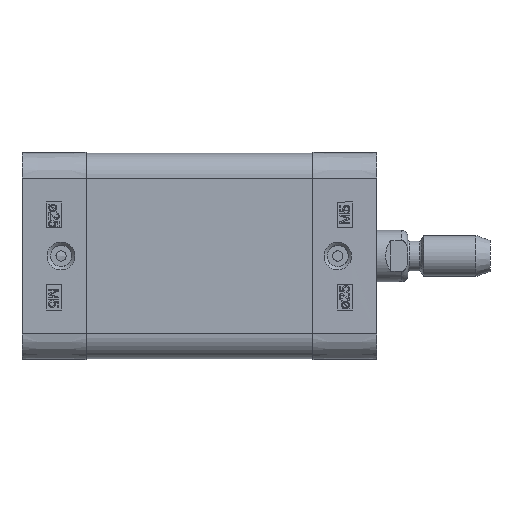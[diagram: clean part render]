
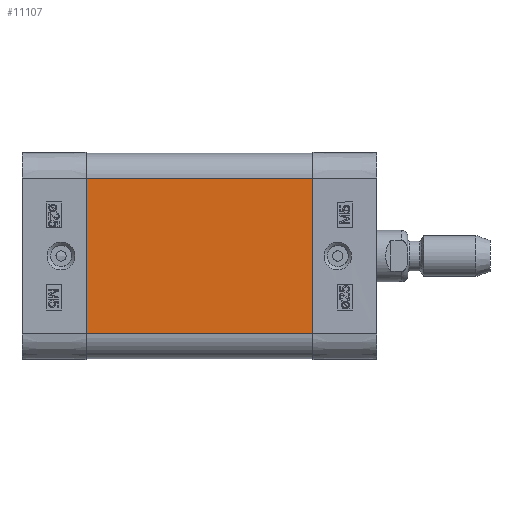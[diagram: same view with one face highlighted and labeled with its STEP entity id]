
A CAD part, left-side view. The second image highlights one B-rep face of the part: STEP entity #11107.
In plain terms, the highlighted planar face has unit normal (-1, 0, 0).
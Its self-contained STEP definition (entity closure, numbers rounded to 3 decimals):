
#8889=CARTESIAN_POINT('',(-20.,-44.0,15.0));
#8890=VERTEX_POINT('',#8889);
#8898=CARTESIAN_POINT('',(-20.,-44.0,-15.));
#8899=VERTEX_POINT('',#8898);
#8900=CARTESIAN_POINT('',(-20.,-44.0,-15.));
#8901=DIRECTION('',(0.0,0.0,1.0));
#8902=VECTOR('',#8901,30.);
#8903=LINE('',#8900,#8902);
#8904=EDGE_CURVE('',#8899,#8890,#8903,.T.);
#10035=CARTESIAN_POINT('',(-20.,0.0,15.0));
#10036=VERTEX_POINT('',#10035);
#10044=CARTESIAN_POINT('',(-20.,0.0,15.0));
#10045=DIRECTION('',(0.0,-1.0,0.0));
#10046=VECTOR('',#10045,44.0);
#10047=LINE('',#10044,#10046);
#10048=EDGE_CURVE('',#10036,#8890,#10047,.T.);
#11072=CARTESIAN_POINT('',(-20.,0.0,-15.));
#11073=VERTEX_POINT('',#11072);
#11074=CARTESIAN_POINT('',(-20.,0.0,-15.));
#11075=DIRECTION('',(0.0,-1.0,0.0));
#11076=VECTOR('',#11075,44.0);
#11077=LINE('',#11074,#11076);
#11078=EDGE_CURVE('',#11073,#8899,#11077,.T.);
#11091=CARTESIAN_POINT('',(-20.,0.0,-15.));
#11092=DIRECTION('',(-1.0,0.0,0.0));
#11093=DIRECTION('',(0.0,0.0,1.0));
#11094=AXIS2_PLACEMENT_3D('',#11091,#11092,#11093);
#11095=PLANE('',#11094);
#11096=ORIENTED_EDGE('',*,*,#8904,.T.);
#11097=ORIENTED_EDGE('',*,*,#10048,.F.);
#11098=CARTESIAN_POINT('',(-20.,0.0,-15.));
#11099=DIRECTION('',(0.0,0.0,1.0));
#11100=VECTOR('',#11099,30.);
#11101=LINE('',#11098,#11100);
#11102=EDGE_CURVE('',#11073,#10036,#11101,.T.);
#11103=ORIENTED_EDGE('',*,*,#11102,.F.);
#11104=ORIENTED_EDGE('',*,*,#11078,.T.);
#11105=EDGE_LOOP('',(#11096,#11097,#11103,#11104));
#11106=FACE_OUTER_BOUND('',#11105,.T.);
#11107=ADVANCED_FACE('',(#11106),#11095,.T.);
